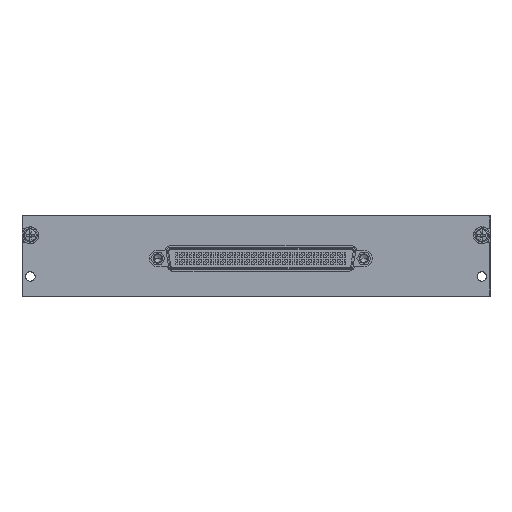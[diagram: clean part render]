
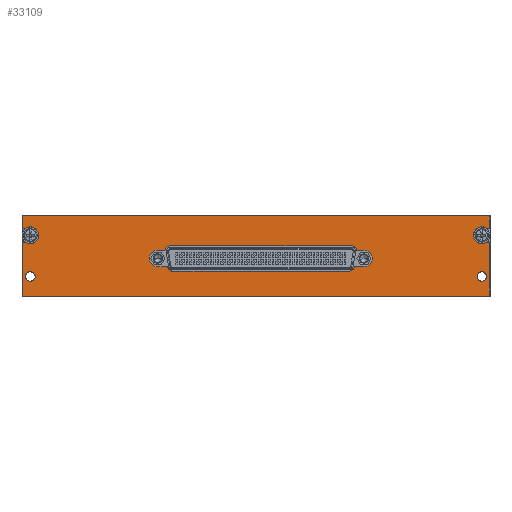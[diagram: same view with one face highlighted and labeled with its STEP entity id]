
A CAD part, top view. The second image highlights one B-rep face of the part: STEP entity #33109.
In plain terms, the highlighted planar face has unit normal (0, 0, 1).
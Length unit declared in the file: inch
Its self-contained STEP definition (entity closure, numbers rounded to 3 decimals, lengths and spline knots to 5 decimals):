
#1620=CARTESIAN_POINT('',(-0.299,0.77453,0.115));
#1621=DIRECTION('',(0.,0.,1.));
#1622=DIRECTION('',(0.614,0.789,0.));
#1623=AXIS2_PLACEMENT_3D('',#1620,#1621,#1622);
#1629=CARTESIAN_POINT('',(-0.21,0.889,0.115));
#1630=DIRECTION('',(0.,0.,-1.));
#1631=DIRECTION('',(-0.614,0.789,0.));
#1632=AXIS2_PLACEMENT_3D('',#1629,#1630,#1631);
#1638=CARTESIAN_POINT('',(-0.299,1.00347,0.115));
#1639=DIRECTION('',(0.,0.,1.));
#1640=DIRECTION('',(-1.,0.,0.));
#1641=AXIS2_PLACEMENT_3D('',#1638,#1639,#1640);
#1659=CARTESIAN_POINT('',(6.451,1.00347,0.115));
#1660=DIRECTION('',(0.,0.,1.));
#1661=DIRECTION('',(-0.614,-0.789,0.));
#1662=AXIS2_PLACEMENT_3D('',#1659,#1660,#1661);
#1668=CARTESIAN_POINT('',(6.362,0.889,0.115));
#1669=DIRECTION('',(0.,0.,-1.));
#1670=DIRECTION('',(0.614,-0.789,0.));
#1671=AXIS2_PLACEMENT_3D('',#1668,#1669,#1670);
#1677=CARTESIAN_POINT('',(6.451,0.77453,0.115));
#1678=DIRECTION('',(0.,0.,1.));
#1679=DIRECTION('',(1.,0.,0.));
#1680=AXIS2_PLACEMENT_3D('',#1677,#1678,#1679);
#1686=DIRECTION('',(0.,1.,0.));
#1687=VECTOR('',#1686,0.76953);
#1688=CARTESIAN_POINT('',(6.471,0.005,0.115));
#1689=LINE('',#1688,#1687);
#1690=DIRECTION('',(1.,0.,0.));
#1691=VECTOR('',#1690,6.79);
#1692=CARTESIAN_POINT('',(-0.319,0.005,0.115));
#1693=LINE('',#1692,#1691);
#1694=DIRECTION('',(0.,-1.,0.));
#1695=VECTOR('',#1694,0.76953);
#1696=CARTESIAN_POINT('',(-0.319,0.77453,0.115));
#1697=LINE('',#1696,#1695);
#1698=DIRECTION('',(0.,-1.,0.));
#1699=VECTOR('',#1698,0.16953);
#1700=CARTESIAN_POINT('',(-0.319,1.173,0.115));
#1701=LINE('',#1700,#1699);
#1702=DIRECTION('',(-1.,0.,0.));
#1703=VECTOR('',#1702,6.79);
#1704=CARTESIAN_POINT('',(6.471,1.173,0.115));
#1705=LINE('',#1704,#1703);
#1706=DIRECTION('',(0.,1.,0.));
#1707=VECTOR('',#1706,0.16953);
#1708=CARTESIAN_POINT('',(6.471,1.00347,0.115));
#1709=LINE('',#1708,#1707);
#1710=CARTESIAN_POINT('',(6.362,0.291,0.115));
#1711=DIRECTION('',(0.,0.,-1.));
#1712=DIRECTION('',(0.,-1.,0.));
#1713=AXIS2_PLACEMENT_3D('',#1710,#1711,#1712);
#1715=CARTESIAN_POINT('',(6.362,0.291,0.115));
#1716=DIRECTION('',(0.,0.,-1.));
#1717=DIRECTION('',(0.,1.,0.));
#1718=AXIS2_PLACEMENT_3D('',#1715,#1716,#1717);
#1720=CARTESIAN_POINT('',(-0.21,0.291,0.115));
#1721=DIRECTION('',(0.,0.,-1.));
#1722=DIRECTION('',(0.,-1.,0.));
#1723=AXIS2_PLACEMENT_3D('',#1720,#1721,#1722);
#1725=CARTESIAN_POINT('',(-0.21,0.291,0.115));
#1726=DIRECTION('',(0.,0.,-1.));
#1727=DIRECTION('',(0.,1.,0.));
#1728=AXIS2_PLACEMENT_3D('',#1725,#1726,#1727);
#1730=CARTESIAN_POINT('',(1.6459,0.5525,0.115));
#1731=DIRECTION('',(0.,0.,1.));
#1732=DIRECTION('',(0.,1.,0.));
#1733=AXIS2_PLACEMENT_3D('',#1730,#1731,#1732);
#1735=DIRECTION('',(1.,0.,0.));
#1736=VECTOR('',#1735,0.1396);
#1737=CARTESIAN_POINT('',(1.6459,0.4305,0.115));
#1738=LINE('',#1737,#1736);
#1739=CARTESIAN_POINT('',(1.86527,0.4495,0.115));
#1740=DIRECTION('',(0.,0.,1.));
#1741=DIRECTION('',(-0.973,-0.232,0.));
#1742=AXIS2_PLACEMENT_3D('',#1739,#1740,#1741);
#1744=DIRECTION('',(1.,0.,0.));
#1745=VECTOR('',#1744,2.56126);
#1746=CARTESIAN_POINT('',(1.86527,0.3675,0.115));
#1747=LINE('',#1746,#1745);
#1748=CARTESIAN_POINT('',(4.42653,0.4495,0.115));
#1749=DIRECTION('',(0.,0.,1.));
#1750=DIRECTION('',(0.,-1.,0.));
#1751=AXIS2_PLACEMENT_3D('',#1748,#1749,#1750);
#1753=DIRECTION('',(1.,0.,0.));
#1754=VECTOR('',#1753,0.1396);
#1755=CARTESIAN_POINT('',(4.5063,0.4305,0.115));
#1756=LINE('',#1755,#1754);
#1757=CARTESIAN_POINT('',(4.6459,0.5525,0.115));
#1758=DIRECTION('',(0.,0.,1.));
#1759=DIRECTION('',(0.,-1.,0.));
#1760=AXIS2_PLACEMENT_3D('',#1757,#1758,#1759);
#1762=DIRECTION('',(-1.,0.,0.));
#1763=VECTOR('',#1762,0.10344);
#1764=CARTESIAN_POINT('',(4.6459,0.6745,0.115));
#1765=LINE('',#1764,#1763);
#1766=CARTESIAN_POINT('',(4.46269,0.6555,0.115));
#1767=DIRECTION('',(0.,0.,1.));
#1768=DIRECTION('',(0.973,0.232,0.));
#1769=AXIS2_PLACEMENT_3D('',#1766,#1767,#1768);
#1771=DIRECTION('',(-1.,0.,0.));
#1772=VECTOR('',#1771,2.63358);
#1773=CARTESIAN_POINT('',(4.46269,0.7375,0.115));
#1774=LINE('',#1773,#1772);
#1775=CARTESIAN_POINT('',(1.82911,0.6555,0.115));
#1776=DIRECTION('',(0.,0.,1.));
#1777=DIRECTION('',(0.,1.,0.));
#1778=AXIS2_PLACEMENT_3D('',#1775,#1776,#1777);
#1780=DIRECTION('',(-1.,0.,0.));
#1781=VECTOR('',#1780,0.10344);
#1782=CARTESIAN_POINT('',(1.74934,0.6745,0.115));
#1783=LINE('',#1782,#1781);
#30611=CARTESIAN_POINT('',(6.471,1.173,0.115));
#30612=CARTESIAN_POINT('',(-0.319,1.173,0.115));
#30613=VERTEX_POINT('',#30611);
#30614=VERTEX_POINT('',#30612);
#30615=CARTESIAN_POINT('',(-0.319,0.005,0.115));
#30616=CARTESIAN_POINT('',(6.471,0.005,0.115));
#30617=VERTEX_POINT('',#30615);
#30618=VERTEX_POINT('',#30616);
#30619=CARTESIAN_POINT('',(6.362,0.221,0.115));
#30620=CARTESIAN_POINT('',(6.362,0.361,0.115));
#30621=VERTEX_POINT('',#30619);
#30622=VERTEX_POINT('',#30620);
#30623=CARTESIAN_POINT('',(-0.21,0.221,0.115));
#30624=CARTESIAN_POINT('',(-0.21,0.361,0.115));
#30625=VERTEX_POINT('',#30623);
#30626=VERTEX_POINT('',#30624);
#30631=CARTESIAN_POINT('',(6.471,0.77453,0.115));
#30632=CARTESIAN_POINT('',(6.43873,0.79032,0.115));
#30633=VERTEX_POINT('',#30631);
#30634=VERTEX_POINT('',#30632);
#30635=CARTESIAN_POINT('',(6.43873,0.98768,0.115));
#30636=CARTESIAN_POINT('',(6.471,1.00347,0.115));
#30637=VERTEX_POINT('',#30635);
#30638=VERTEX_POINT('',#30636);
#30639=CARTESIAN_POINT('',(-0.28672,0.79032,0.115));
#30640=CARTESIAN_POINT('',(-0.319,0.77453,0.115));
#30641=VERTEX_POINT('',#30639);
#30642=VERTEX_POINT('',#30640);
#30643=CARTESIAN_POINT('',(-0.319,1.00347,0.115));
#30644=CARTESIAN_POINT('',(-0.28672,0.98768,0.115));
#30645=VERTEX_POINT('',#30643);
#30646=VERTEX_POINT('',#30644);
#30647=CARTESIAN_POINT('',(1.6459,0.6745,0.115));
#30648=CARTESIAN_POINT('',(1.6459,0.4305,0.115));
#30649=VERTEX_POINT('',#30647);
#30650=VERTEX_POINT('',#30648);
#30651=CARTESIAN_POINT('',(1.7855,0.4305,0.115));
#30652=VERTEX_POINT('',#30651);
#30653=CARTESIAN_POINT('',(1.86527,0.3675,0.115));
#30654=VERTEX_POINT('',#30653);
#30655=CARTESIAN_POINT('',(4.42653,0.3675,0.115));
#30656=VERTEX_POINT('',#30655);
#30657=CARTESIAN_POINT('',(4.5063,0.4305,0.115));
#30658=VERTEX_POINT('',#30657);
#30659=CARTESIAN_POINT('',(4.6459,0.4305,0.115));
#30660=VERTEX_POINT('',#30659);
#30661=CARTESIAN_POINT('',(4.6459,0.6745,0.115));
#30662=VERTEX_POINT('',#30661);
#30663=CARTESIAN_POINT('',(4.54246,0.6745,0.115));
#30664=VERTEX_POINT('',#30663);
#30665=CARTESIAN_POINT('',(4.46269,0.7375,0.115));
#30666=VERTEX_POINT('',#30665);
#30667=CARTESIAN_POINT('',(1.82911,0.7375,0.115));
#30668=VERTEX_POINT('',#30667);
#30669=CARTESIAN_POINT('',(1.74934,0.6745,0.115));
#30670=VERTEX_POINT('',#30669);
#33052=CARTESIAN_POINT('',(6.471,0.005,0.115));
#33053=DIRECTION('',(0.,0.,1.));
#33054=DIRECTION('',(0.,1.,0.));
#33055=AXIS2_PLACEMENT_3D('',#33052,#33053,#33054);
#33056=PLANE('',#33055);
#33057=ORIENTED_EDGE('',*,*,#33046,.F.);
#33058=ORIENTED_EDGE('',*,*,#32889,.F.);
#33059=ORIENTED_EDGE('',*,*,#32904,.F.);
#33060=ORIENTED_EDGE('',*,*,#32921,.F.);
#33061=ORIENTED_EDGE('',*,*,#32935,.F.);
#33062=ORIENTED_EDGE('',*,*,#32949,.F.);
#33063=ORIENTED_EDGE('',*,*,#32963,.F.);
#33064=ORIENTED_EDGE('',*,*,#32977,.F.);
#33065=ORIENTED_EDGE('',*,*,#32991,.F.);
#33066=ORIENTED_EDGE('',*,*,#33005,.F.);
#33067=ORIENTED_EDGE('',*,*,#33019,.F.);
#33068=ORIENTED_EDGE('',*,*,#33033,.F.);
#33069=EDGE_LOOP('',(#33057,#33058,#33059,#33060,#33061,#33062,#33063,#33064,
#33065,#33066,#33067,#33068));
#33070=FACE_OUTER_BOUND('',#33069,.F.);
#33072=ORIENTED_EDGE('',*,*,#33071,.F.);
#33074=ORIENTED_EDGE('',*,*,#33073,.F.);
#33075=EDGE_LOOP('',(#33072,#33074));
#33076=FACE_BOUND('',#33075,.F.);
#33078=ORIENTED_EDGE('',*,*,#33077,.F.);
#33080=ORIENTED_EDGE('',*,*,#33079,.F.);
#33081=EDGE_LOOP('',(#33078,#33080));
#33082=FACE_BOUND('',#33081,.F.);
#33084=ORIENTED_EDGE('',*,*,#33083,.T.);
#33086=ORIENTED_EDGE('',*,*,#33085,.T.);
#33088=ORIENTED_EDGE('',*,*,#33087,.T.);
#33090=ORIENTED_EDGE('',*,*,#33089,.T.);
#33092=ORIENTED_EDGE('',*,*,#33091,.T.);
#33094=ORIENTED_EDGE('',*,*,#33093,.T.);
#33096=ORIENTED_EDGE('',*,*,#33095,.T.);
#33098=ORIENTED_EDGE('',*,*,#33097,.T.);
#33100=ORIENTED_EDGE('',*,*,#33099,.T.);
#33102=ORIENTED_EDGE('',*,*,#33101,.T.);
#33104=ORIENTED_EDGE('',*,*,#33103,.T.);
#33106=ORIENTED_EDGE('',*,*,#33105,.T.);
#33107=EDGE_LOOP('',(#33084,#33086,#33088,#33090,#33092,#33094,#33096,#33098,
#33100,#33102,#33104,#33106));
#33108=FACE_BOUND('',#33107,.F.);
#33109=ADVANCED_FACE('',(#33070,#33076,#33082,#33108),#33056,.T.);
#1624=CIRCLE('',#1623,0.02);
#1633=CIRCLE('',#1632,0.125);
#1642=CIRCLE('',#1641,0.02);
#1663=CIRCLE('',#1662,0.02);
#1672=CIRCLE('',#1671,0.125);
#1681=CIRCLE('',#1680,0.02);
#1714=CIRCLE('',#1713,0.07);
#1719=CIRCLE('',#1718,0.07);
#1724=CIRCLE('',#1723,0.07);
#1729=CIRCLE('',#1728,0.07);
#1734=CIRCLE('',#1733,0.122);
#1743=CIRCLE('',#1742,0.082);
#1752=CIRCLE('',#1751,0.082);
#1761=CIRCLE('',#1760,0.122);
#1770=CIRCLE('',#1769,0.082);
#1779=CIRCLE('',#1778,0.082);
#32889=EDGE_CURVE('',#30618,#30633,#1689,.T.);
#32904=EDGE_CURVE('',#30617,#30618,#1693,.T.);
#32921=EDGE_CURVE('',#30642,#30617,#1697,.T.);
#32935=EDGE_CURVE('',#30641,#30642,#1624,.T.);
#32949=EDGE_CURVE('',#30646,#30641,#1633,.T.);
#32963=EDGE_CURVE('',#30645,#30646,#1642,.T.);
#32977=EDGE_CURVE('',#30614,#30645,#1701,.T.);
#32991=EDGE_CURVE('',#30613,#30614,#1705,.T.);
#33005=EDGE_CURVE('',#30638,#30613,#1709,.T.);
#33019=EDGE_CURVE('',#30637,#30638,#1663,.T.);
#33033=EDGE_CURVE('',#30634,#30637,#1672,.T.);
#33046=EDGE_CURVE('',#30633,#30634,#1681,.T.);
#33071=EDGE_CURVE('',#30621,#30622,#1714,.T.);
#33073=EDGE_CURVE('',#30622,#30621,#1719,.T.);
#33077=EDGE_CURVE('',#30625,#30626,#1724,.T.);
#33079=EDGE_CURVE('',#30626,#30625,#1729,.T.);
#33083=EDGE_CURVE('',#30649,#30650,#1734,.T.);
#33085=EDGE_CURVE('',#30650,#30652,#1738,.T.);
#33087=EDGE_CURVE('',#30652,#30654,#1743,.T.);
#33089=EDGE_CURVE('',#30654,#30656,#1747,.T.);
#33091=EDGE_CURVE('',#30656,#30658,#1752,.T.);
#33093=EDGE_CURVE('',#30658,#30660,#1756,.T.);
#33095=EDGE_CURVE('',#30660,#30662,#1761,.T.);
#33097=EDGE_CURVE('',#30662,#30664,#1765,.T.);
#33099=EDGE_CURVE('',#30664,#30666,#1770,.T.);
#33101=EDGE_CURVE('',#30666,#30668,#1774,.T.);
#33103=EDGE_CURVE('',#30668,#30670,#1779,.T.);
#33105=EDGE_CURVE('',#30670,#30649,#1783,.T.);
